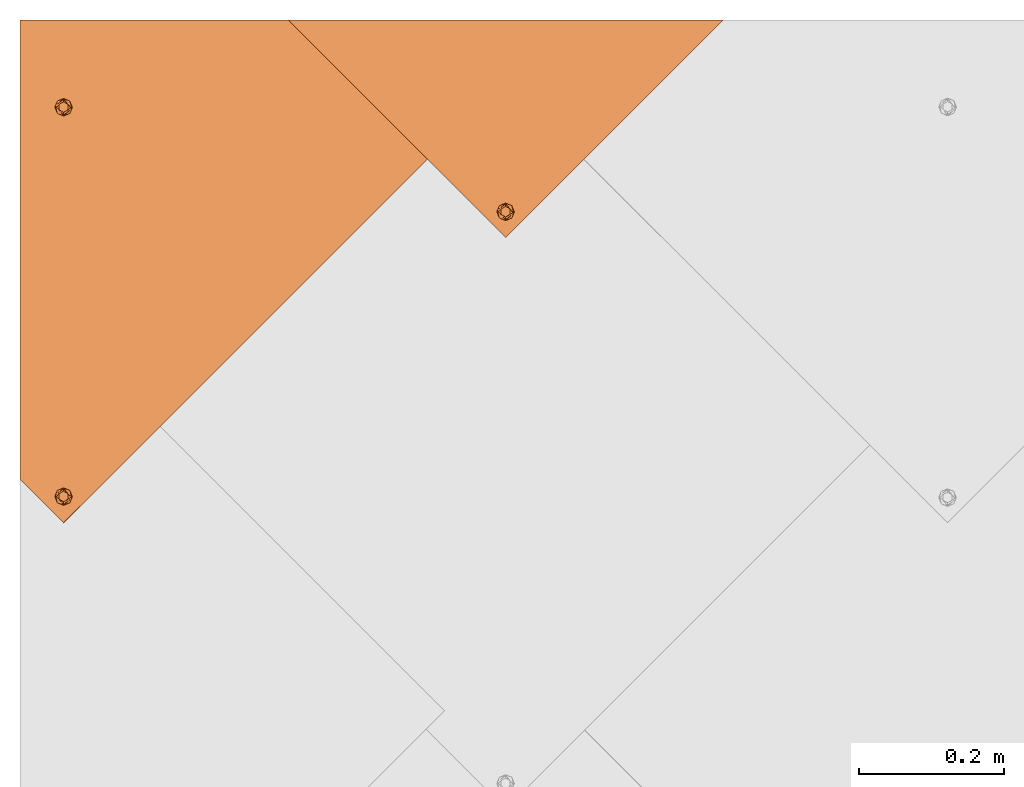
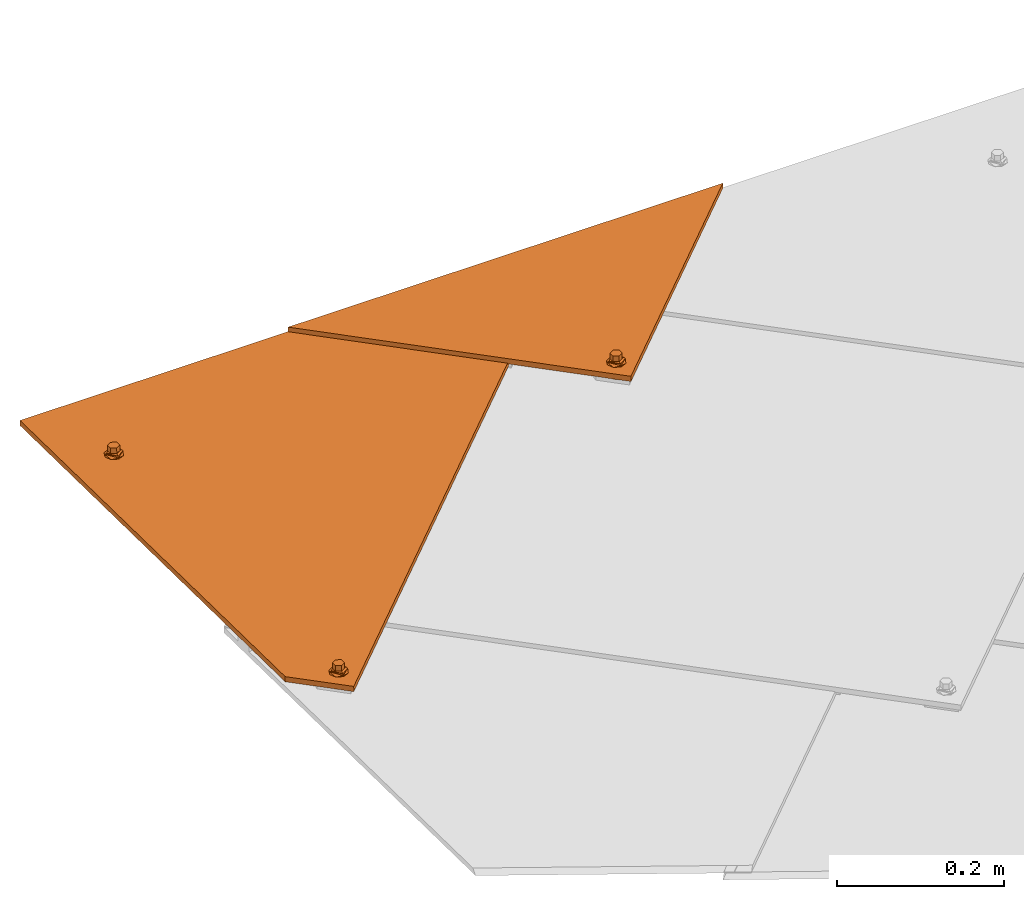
# One storey, part 118 of 151: 2 proxies.
"""IFC2X3 building model written with IfcOpenShell, lengths in millimetres."""

from ifc_helpers import new_model, entity, si_unit, converted_unit, derived_unit, direction, frame, origin, place, context, subcontext, project, spatial, faceted_brep, source, transform, mapped, material, material_list, type_object, type_shapes, element, save


model = new_model("IFC2X3")

# Units and contexts
model_context = context("Model", 3, precision=0.01, world=origin(), true_north=direction((6.12303176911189e-17, 1.0)))
body_context = subcontext(model_context, "Body", "Model", "MODEL_VIEW")
ifc_project = project(units=[si_unit("LENGTHUNIT", "METRE", prefix="MILLI"), si_unit("AREAUNIT", "SQUARE_METRE"), si_unit("VOLUMEUNIT", "CUBIC_METRE"), converted_unit("PLANEANGLEUNIT", "DEGREE", entity("IfcRatioMeasure", 0.0174532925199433), si_unit("PLANEANGLEUNIT", "RADIAN"), dimensions=[0, 0, 0, 0, 0, 0, 0]), si_unit("MASSUNIT", "GRAM", prefix="KILO"), derived_unit("MASSDENSITYUNIT", [(si_unit("MASSUNIT", "GRAM", prefix="KILO"), 1), (si_unit("LENGTHUNIT", "METRE"), -3)]), si_unit("TIMEUNIT", "SECOND"), si_unit("FREQUENCYUNIT", "HERTZ"), si_unit("THERMODYNAMICTEMPERATUREUNIT", "DEGREE_CELSIUS"), derived_unit("THERMALTRANSMITTANCEUNIT", [(si_unit("MASSUNIT", "GRAM", prefix="KILO"), 1), (si_unit("THERMODYNAMICTEMPERATUREUNIT", "KELVIN"), -1), (si_unit("TIMEUNIT", "SECOND"), -3)]), derived_unit("VOLUMETRICFLOWRATEUNIT", [(si_unit("LENGTHUNIT", "METRE"), 3), (si_unit("TIMEUNIT", "SECOND"), -1)]), si_unit("ELECTRICCURRENTUNIT", "AMPERE"), si_unit("ELECTRICVOLTAGEUNIT", "VOLT"), si_unit("POWERUNIT", "WATT"), si_unit("FORCEUNIT", "NEWTON", prefix="KILO"), si_unit("ILLUMINANCEUNIT", "LUX"), si_unit("LUMINOUSFLUXUNIT", "LUMEN"), si_unit("LUMINOUSINTENSITYUNIT", "CANDELA"), derived_unit("USERDEFINED", [(si_unit("MASSUNIT", "GRAM", prefix="KILO"), -1), (si_unit("LENGTHUNIT", "METRE"), -2), (si_unit("TIMEUNIT", "SECOND"), 3), (si_unit("LUMINOUSFLUXUNIT", "LUMEN"), 1)]), derived_unit("LINEARVELOCITYUNIT", [(si_unit("LENGTHUNIT", "METRE"), 1), (si_unit("TIMEUNIT", "SECOND"), -1)]), si_unit("PRESSUREUNIT", "PASCAL"), derived_unit("USERDEFINED", [(si_unit("LENGTHUNIT", "METRE"), -2), (si_unit("MASSUNIT", "GRAM", prefix="KILO"), 1), (si_unit("TIMEUNIT", "SECOND"), -2)])], contexts=[model_context])

# Site, building, storey
site_placement = place(None, origin())
site = spatial("IfcSite", under=ifc_project, at=site_placement, Name="Default", CompositionType="ELEMENT")
building_placement = place(site_placement, origin())
building = spatial("IfcBuilding", under=site, at=building_placement, CompositionType="ELEMENT")
storey_placement = place(building_placement, origin())
storey = spatial("IfcBuildingStorey", under=building, at=storey_placement, Name="Level 1", CompositionType="ELEMENT", Elevation=0.0)

# Proxies
ifc_material_1 = material(Name="Rubber - Sunstyle - Black")
ifc_material_2 = material(Name="Glass - Sunstyle - Tainted Black")
ifc_material_list_1 = material_list([ifc_material_1, ifc_material_2])
ifc_material_list_2 = material_list([ifc_material_1, ifc_material_2])
building_element_proxy_type_1 = type_object("IfcBuildingElementProxyType", Name="Corner Top Big Left - Black", PredefinedType="NOTDEFINED", material=ifc_material_list_2)
shared_shape_1 = source(origin(), body_context, "Body", "Brep", [
    faceted_brep([(0.0, -33.9825851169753, -4.47296585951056), (-5.7742028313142, -37.3158552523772, -4.41714187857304), (-5.77420283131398, -36.9475461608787, 17.5747274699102), (0.0, -33.6142760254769, 17.5189034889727), (-5.77420283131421, -43.9823955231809, -4.30549391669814), (-5.77420283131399, -43.6140864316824, 17.6863754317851), (0.0, -47.3156656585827, -4.24966993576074), (0.0, -46.9473565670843, 17.7421994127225), (5.77420283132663, -43.9823955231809, -4.30549391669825), (5.77420283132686, -43.6140864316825, 17.686375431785), (5.77420283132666, -37.3158552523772, -4.41714187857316), (5.77420283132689, -36.9475461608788, 17.5747274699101), (-8.60370416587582, -48.8833141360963, 17.774621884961), (0.0, -52.4465854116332, 17.8342978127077), (-12.1674751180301, -40.2808162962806, 17.6305514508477), (-8.60370416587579, -31.6783184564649, 17.4864810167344), (0.0, -28.115047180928, 17.4268050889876), (8.60370416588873, -31.6783184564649, 17.4864810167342), (12.167475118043, -40.2808162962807, 17.6305514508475), (8.60370416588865, -48.8833141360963, 17.7746218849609), (-11.3242446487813, -37.9857391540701, 19.9433933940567), (-9.75647455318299, -40.2098014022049, 21.8708760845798), (0.0, -32.8967261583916, 22.5035764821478), (0.0, -31.6562285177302, 21.9232298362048), (0.0, -29.4986776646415, 20.9138547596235), (0.0, -51.8905414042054, 19.1093557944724), (0.0, -50.9469648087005, 21.273060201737), (0.0, -47.4975891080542, 22.748104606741), (0.0, -28.6280832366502, 18.719767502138), (-6.32324569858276, -43.8473733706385, 22.6869725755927), (-6.32324569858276, -36.5469418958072, 22.5647085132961), (11.3242446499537, -42.4971593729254, 20.0189484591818), (9.84888015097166, -41.2842078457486, 21.7920079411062), (6.32324569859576, -36.5469418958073, 22.564708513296), (6.32324569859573, -43.8473733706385, 22.6869725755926), (-6.32324569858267, -43.7133449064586, 30.6898607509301), (0.0, -47.3635606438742, 30.7509927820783), (0.0, -40.063129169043, 30.6287287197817), (-6.32324569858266, -36.4129134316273, 30.5675966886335), (6.32324569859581, -43.7133449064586, 30.68986075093), (6.32324569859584, -36.4129134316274, 30.5675966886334), (0.0, -32.7626976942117, 30.5064646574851), (0.0, -40.649125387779, -4.36131789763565)], [[[0, 1, 2, 3]], [[1, 4, 5, 2]], [[4, 6, 7, 5]], [[6, 8, 9, 7]], [[8, 10, 11, 9]], [[10, 0, 3, 11]], [[12, 7, 13]], [[7, 12, 5]], [[14, 5, 12]], [[5, 14, 2]], [[15, 2, 14]], [[3, 2, 15]], [[15, 16, 3]], [[16, 17, 3]], [[11, 3, 17]], [[11, 17, 18]], [[9, 11, 18]], [[18, 19, 9]], [[7, 9, 19]], [[19, 13, 7]], [[20, 14, 12]], [[21, 22, 23, 24]], [[24, 20, 21]], [[25, 20, 12]], [[26, 27, 21]], [[15, 14, 20]], [[12, 13, 25]], [[20, 28, 15]], [[28, 20, 24]], [[21, 27, 29]], [[21, 29, 30]], [[26, 21, 20]], [[20, 25, 26]], [[15, 28, 16]], [[21, 30, 22]], [[31, 18, 17]], [[28, 31, 17]], [[32, 27, 26]], [[26, 31, 32]], [[26, 25, 31]], [[25, 19, 31]], [[17, 16, 28]], [[31, 19, 18]], [[24, 31, 28]], [[33, 34, 32]], [[23, 22, 33]], [[24, 32, 31]], [[27, 32, 34]], [[32, 23, 33]], [[19, 25, 13]], [[32, 24, 23]], [[35, 36, 37]], [[37, 38, 35]], [[36, 39, 37]], [[40, 37, 39]], [[37, 40, 41]], [[37, 41, 38]], [[42, 6, 4]], [[4, 1, 42]], [[1, 0, 42]], [[42, 8, 6]], [[0, 10, 42]], [[8, 42, 10]], [[22, 30, 38, 41]], [[30, 29, 35, 38]], [[29, 27, 36, 35]], [[27, 34, 39, 36]], [[34, 33, 40, 39]], [[33, 22, 41, 40]]]),
    faceted_brep([(0.0, -572.517457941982, 4.0063690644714), (-5.77420283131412, -575.850728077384, 4.06219304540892), (-5.77420283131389, -575.482418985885, 26.0540623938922), (0.0, -572.149148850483, 25.9982384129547), (-5.77420283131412, -582.517268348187, 4.17384100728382), (-5.7742028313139, -582.148959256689, 26.1657103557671), (0.0, -585.850538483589, 4.22966498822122), (0.0, -585.482229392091, 26.2215343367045), (5.77420283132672, -582.517268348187, 4.17384100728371), (5.77420283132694, -582.148959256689, 26.165710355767), (5.77420283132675, -575.850728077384, 4.0621930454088), (5.77420283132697, -575.482418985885, 26.0540623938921), (-8.60370416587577, -587.418186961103, 26.253956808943), (0.0, -590.98145823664, 26.3136327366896), (-12.1674751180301, -578.815689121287, 26.1098863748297), (-8.60370416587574, -570.213191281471, 25.9658159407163), (0.0, -566.649920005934, 25.9061400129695), (8.60370416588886, -570.213191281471, 25.9658159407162), (12.1674751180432, -578.815689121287, 26.1098863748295), (8.60370416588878, -587.418186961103, 26.2539568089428), (-11.3242446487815, -576.520611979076, 28.4227283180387), (-9.75647455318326, -578.744674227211, 30.3502110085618), (0.0, -571.431598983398, 30.9829114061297), (0.0, -570.191101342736, 30.4025647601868), (0.0, -568.033550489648, 29.3931896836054), (0.0, -590.425414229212, 27.5886907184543), (0.0, -589.481837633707, 29.752395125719), (0.0, -586.032461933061, 31.227439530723), (0.0, -567.162956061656, 27.1991024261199), (-6.32324569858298, -582.382246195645, 31.1663074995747), (-6.32324569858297, -575.081814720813, 31.0440434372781), (11.3242446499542, -581.032032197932, 28.4982833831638), (9.8488801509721, -579.819080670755, 30.2713428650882), (6.32324569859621, -575.081814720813, 31.044043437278), (6.32324569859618, -582.382246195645, 31.1663074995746), (-6.32324569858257, -582.248217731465, 39.1691956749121), (0.0, -585.898433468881, 39.2303277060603), (0.0, -578.598001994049, 39.1080636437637), (-6.32324569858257, -574.947786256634, 39.0469316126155), (6.32324569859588, -582.248217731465, 39.1691956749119), (6.32324569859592, -574.947786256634, 39.0469316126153), (0.0, -571.297570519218, 38.9857995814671), (0.0, -579.183998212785, 4.1180170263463)], [[[0, 1, 2, 3]], [[1, 4, 5, 2]], [[4, 6, 7, 5]], [[6, 8, 9, 7]], [[8, 10, 11, 9]], [[10, 0, 3, 11]], [[12, 7, 13]], [[7, 12, 5]], [[14, 5, 12]], [[5, 14, 2]], [[15, 2, 14]], [[3, 2, 15]], [[15, 16, 3]], [[16, 17, 3]], [[11, 3, 17]], [[11, 17, 18]], [[9, 11, 18]], [[18, 19, 9]], [[7, 9, 19]], [[19, 13, 7]], [[20, 14, 12]], [[21, 22, 23, 24]], [[24, 20, 21]], [[25, 20, 12]], [[26, 27, 21]], [[15, 14, 20]], [[12, 13, 25]], [[20, 28, 15]], [[28, 20, 24]], [[21, 27, 29]], [[21, 29, 30]], [[26, 21, 20]], [[20, 25, 26]], [[15, 28, 16]], [[21, 30, 22]], [[31, 18, 17]], [[28, 31, 17]], [[32, 27, 26]], [[26, 31, 32]], [[26, 25, 31]], [[25, 19, 31]], [[17, 16, 28]], [[31, 19, 18]], [[24, 31, 28]], [[33, 34, 32]], [[23, 22, 33]], [[24, 32, 31]], [[27, 32, 34]], [[32, 23, 33]], [[19, 25, 13]], [[32, 24, 23]], [[35, 36, 37]], [[37, 38, 35]], [[36, 39, 37]], [[40, 37, 39]], [[37, 40, 41]], [[37, 41, 38]], [[42, 6, 4]], [[4, 1, 42]], [[1, 0, 42]], [[42, 8, 6]], [[0, 10, 42]], [[8, 42, 10]], [[22, 30, 38, 41]], [[30, 29, 35, 38]], [[29, 27, 36, 35]], [[27, 34, 39, 36]], [[34, 33, 40, 39]], [[33, 22, 41, 40]]]),
    faceted_brep([(518.469870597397, -96.888376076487, 17.926263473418), (526.954557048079, -88.4036896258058, 17.7841660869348), (526.954557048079, -88.3785718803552, 19.2839557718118), (518.469870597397, -96.8632583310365, 19.426053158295), (349.749078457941, 71.7851066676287, 15.1014023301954), (358.233764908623, 80.2697931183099, 14.9593049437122), (358.233764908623, 80.2949108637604, 16.4590946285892), (349.749078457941, 71.8102244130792, 16.6011920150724)], [[[0, 1, 2, 3]], [[1, 0, 4, 5]], [[2, 1, 5, 6]], [[3, 2, 6, 7]], [[0, 3, 7, 4]], [[4, 7, 6, 5]]]),
    faceted_brep([(358.233764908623, 80.2697931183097, 14.9593049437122), (6.92820323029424, -35.9783347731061, 16.9061718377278), (7.72740661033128, -37.9075118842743, 16.9384807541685), (5.6568542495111, -34.321712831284, 16.8784275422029), (8.0, -39.9777739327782, 16.9731524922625), (7.72740661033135, -42.0480359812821, 17.0078242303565), (6.92820323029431, -43.9772130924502, 17.0401331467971), (526.954557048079, -88.4036896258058, 17.7841660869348), (-60.1037538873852, 80.269793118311, 14.9593049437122), (4.0, -33.0505421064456, 16.8571385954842), (2.07055236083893, -32.2514507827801, 16.8437558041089), (0.0, -31.9788956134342, 16.8391911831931), (-2.07055236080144, -32.2514507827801, 16.8437558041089), (-4.0, -33.0505421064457, 16.8571385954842), (-5.6568542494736, -34.321712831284, 16.8784275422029), (-6.92820323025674, -35.9783347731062, 16.9061718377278), (-7.72740661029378, -37.9075118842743, 16.9384807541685), (-8.0, -39.9777739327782, 16.9731524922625), (-7.72740661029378, -42.0480359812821, 17.0078242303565), (-60.1037538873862, -555.122942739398, 25.6005522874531), (-6.92820323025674, -43.9772130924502, 17.0401331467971), (-5.6568542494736, -45.6338350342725, 17.067877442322), (-4.0, -46.9050057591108, 17.0891663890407), (-2.07055236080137, -47.7040970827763, 17.102549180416), (0.0, -47.9766522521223, 17.1071138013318), (2.07055236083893, -47.7040970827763, 17.102549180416), (2.00505600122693, -570.990105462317, 25.8662877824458), (-0.0654963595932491, -570.717550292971, 25.8617231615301), (-2.13604872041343, -570.990105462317, 25.8662877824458), (-4.06549635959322, -571.789196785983, 25.8796705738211), (-5.7223506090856, -573.060367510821, 25.9009595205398), (-6.99369958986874, -574.716989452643, 25.9287038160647), (-7.79290296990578, -576.646166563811, 25.9610127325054), (-8.06549635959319, -578.716428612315, 25.9956844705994), (-7.79290296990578, -580.786690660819, 26.0303562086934), (-6.99369958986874, -582.715867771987, 26.062665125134), (0.00032251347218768, -615.210165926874, 26.6068637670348), (7.66191025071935, -580.786690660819, 26.0303562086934), (6.86270687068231, -582.715867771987, 26.062665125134), (5.59135788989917, -584.37248971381, 26.0904094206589), (3.93450364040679, -585.643660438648, 26.1116983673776), (2.005056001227, -586.442751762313, 26.1250811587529), (-0.0654963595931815, -586.715306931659, 26.1296457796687), (-2.13604872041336, -586.442751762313, 26.1250811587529), (-4.06549635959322, -585.643660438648, 26.1116983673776), (-5.7223506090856, -584.37248971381, 26.0904094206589), (3.93450364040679, -571.789196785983, 25.8796705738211), (4.0, -46.9050057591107, 17.0891663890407), (5.59135788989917, -573.060367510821, 25.9009595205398), (5.65685424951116, -45.6338350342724, 17.067877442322), (6.86270687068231, -574.716989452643, 25.9287038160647), (7.66191025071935, -576.646166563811, 25.9610127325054), (7.93450364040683, -578.716428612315, 25.9956844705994), (-60.1037538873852, 80.1442043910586, 7.46035651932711), (-6.92820323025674, -36.1039235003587, 9.40722341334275), (-7.72740661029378, -38.0331006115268, 9.4395323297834), (-5.6568542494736, -34.4473015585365, 9.37947911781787), (-8.0, -40.1033626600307, 9.4742040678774), (-7.72740661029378, -42.1736247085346, 9.5088758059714), (-60.1037538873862, -555.248531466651, 18.101603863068), (-4.0, -33.1761308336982, 9.35819017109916), (-2.07055236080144, -32.3770395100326, 9.34480737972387), (0.0, -32.1044843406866, 9.34024275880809), (2.07055236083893, -32.3770395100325, 9.34480737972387), (4.0, -33.1761308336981, 9.35819017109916), (5.6568542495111, -34.4473015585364, 9.37947911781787), (358.233764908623, 80.1442043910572, 7.46035651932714), (6.92820323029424, -36.1039235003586, 9.40722341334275), (7.72740661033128, -38.0331006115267, 9.4395323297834), (8.0, -40.1033626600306, 9.4742040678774), (7.72740661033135, -42.1736247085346, 9.5088758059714), (6.92820323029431, -44.1028018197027, 9.54118472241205), (526.954557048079, -88.5292783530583, 10.2852176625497), (5.65685424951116, -45.7594237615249, 9.56892901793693), (5.59135788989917, -573.185956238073, 18.4020110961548), (6.86270687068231, -574.842578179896, 18.4297553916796), (7.66191025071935, -576.771755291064, 18.4620643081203), (7.93450364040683, -578.842017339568, 18.4967360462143), (7.66191025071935, -580.912279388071, 18.5314077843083), (0.00032251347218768, -615.335754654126, 19.1079153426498), (-6.99369958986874, -582.84145649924, 18.563716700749), (-5.7223506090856, -584.498078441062, 18.5914609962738), (-4.06549635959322, -585.7692491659, 18.6127499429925), (-2.13604872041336, -586.568340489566, 18.6261327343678), (-0.0654963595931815, -586.840895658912, 18.6306973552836), (2.005056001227, -586.568340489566, 18.6261327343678), (3.93450364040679, -585.7692491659, 18.6127499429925), (5.59135788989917, -584.498078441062, 18.5914609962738), (6.86270687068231, -582.84145649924, 18.563716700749), (4.0, -47.0305944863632, 9.59021796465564), (3.93450364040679, -571.914785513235, 18.3807221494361), (2.07055236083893, -47.8296858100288, 9.60360075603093), (2.00505600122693, -571.115694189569, 18.3673393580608), (-0.0654963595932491, -570.843139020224, 18.362774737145), (-2.13604872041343, -571.11569418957, 18.3673393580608), (-4.06549635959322, -571.914785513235, 18.3807221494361), (-5.7223506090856, -573.185956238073, 18.4020110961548), (-6.99369958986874, -574.842578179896, 18.4297553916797), (-7.79290296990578, -576.771755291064, 18.4620643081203), (-8.06549635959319, -578.842017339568, 18.4967360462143), (-7.79290296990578, -580.912279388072, 18.5314077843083), (0.0, -48.1022409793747, 9.60816537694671), (-6.92820323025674, -44.1028018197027, 9.54118472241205), (-5.6568542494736, -45.7594237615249, 9.56892901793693), (-4.0, -47.0305944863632, 9.59021796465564), (-2.07055236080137, -47.8296858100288, 9.60360075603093)], [[[0, 1, 2]], [[1, 0, 3]], [[0, 2, 4]], [[4, 5, 0]], [[5, 6, 0]], [[7, 0, 6]], [[8, 3, 0]], [[8, 9, 3]], [[8, 10, 9]], [[11, 10, 8]], [[12, 11, 8]], [[13, 12, 8]], [[8, 14, 13]], [[14, 8, 15]], [[15, 8, 16]], [[17, 16, 8]], [[18, 17, 8]], [[18, 8, 19]], [[19, 20, 18]], [[21, 20, 19]], [[22, 21, 19]], [[23, 22, 19]], [[19, 24, 23]], [[19, 25, 24]], [[26, 25, 19]], [[26, 19, 27]], [[28, 27, 19]], [[29, 28, 19]], [[29, 19, 30]], [[19, 31, 30]], [[31, 19, 32]], [[32, 19, 33]], [[34, 33, 19]], [[35, 34, 19]], [[35, 19, 36]], [[7, 37, 36]], [[36, 37, 38]], [[39, 36, 38]], [[39, 40, 36]], [[41, 36, 40]], [[42, 36, 41]], [[42, 43, 36]], [[43, 44, 36]], [[45, 35, 36]], [[45, 36, 44]], [[25, 26, 46]], [[46, 47, 25]], [[48, 47, 46]], [[48, 49, 47]], [[50, 7, 48]], [[48, 7, 49]], [[7, 50, 51]], [[7, 51, 52]], [[52, 37, 7]], [[7, 6, 49]], [[53, 54, 55]], [[54, 53, 56]], [[53, 55, 57]], [[58, 53, 57]], [[53, 58, 59]], [[60, 56, 53]], [[61, 60, 53]], [[53, 62, 61]], [[62, 53, 63]], [[63, 53, 64]], [[53, 65, 64]], [[65, 53, 66]], [[66, 67, 65]], [[67, 66, 68]], [[68, 66, 69]], [[70, 69, 66]], [[71, 70, 66]], [[71, 66, 72]], [[72, 73, 71]], [[73, 72, 74]], [[74, 72, 75]], [[75, 72, 76]], [[77, 76, 72]], [[78, 77, 72]], [[78, 72, 79]], [[59, 80, 79]], [[79, 80, 81]], [[79, 81, 82]], [[82, 83, 79]], [[83, 84, 79]], [[79, 84, 85]], [[79, 85, 86]], [[86, 87, 79]], [[79, 87, 88]], [[79, 88, 78]], [[73, 74, 89]], [[90, 89, 74]], [[90, 91, 89]], [[91, 90, 92]], [[93, 59, 92]], [[92, 59, 91]], [[93, 94, 59]], [[94, 95, 59]], [[95, 96, 59]], [[97, 59, 96]], [[97, 98, 59]], [[98, 99, 59]], [[99, 100, 59]], [[100, 80, 59]], [[59, 101, 91]], [[102, 59, 58]], [[102, 103, 59]], [[103, 104, 59]], [[104, 105, 59]], [[59, 105, 101]], [[36, 19, 59, 79]], [[7, 36, 79, 72]], [[0, 7, 72, 66]], [[33, 99, 98, 32]], [[32, 98, 97, 31]], [[29, 30, 96, 95]], [[96, 30, 31, 97]], [[28, 29, 95, 94]], [[28, 94, 93, 27]], [[27, 93, 92, 26]], [[26, 92, 90, 46]], [[50, 48, 74, 75]], [[74, 48, 46, 90]], [[51, 50, 75, 76]], [[51, 76, 77, 52]], [[52, 77, 78, 37]], [[37, 78, 88, 38]], [[40, 39, 87, 86]], [[87, 39, 38, 88]], [[41, 40, 86, 85]], [[41, 85, 84, 42]], [[42, 84, 83, 43]], [[43, 83, 82, 44]], [[35, 45, 81, 80]], [[81, 45, 44, 82]], [[34, 35, 80, 100]], [[34, 100, 99, 33]], [[17, 57, 55, 16]], [[16, 55, 54, 15]], [[13, 14, 56, 60]], [[56, 14, 15, 54]], [[12, 13, 60, 61]], [[12, 61, 62, 11]], [[11, 62, 63, 10]], [[10, 63, 64, 9]], [[1, 3, 65, 67]], [[65, 3, 9, 64]], [[2, 1, 67, 68]], [[2, 68, 69, 4]], [[4, 69, 70, 5]], [[5, 70, 71, 6]], [[47, 49, 73, 89]], [[73, 49, 6, 71]], [[25, 47, 89, 91]], [[25, 91, 101, 24]], [[24, 101, 105, 23]], [[23, 105, 104, 22]], [[20, 21, 103, 102]], [[103, 21, 22, 104]], [[18, 20, 102, 58]], [[18, 58, 57, 17]], [[19, 8, 53, 59]], [[8, 0, 66, 53]]]),
])
type_shapes(building_element_proxy_type_1, [shared_shape_1])
proxy_1_placement = place(storey_placement, frame((-18987.0196750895, 16738.1410486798, 0.0)))
element("IfcBuildingElementProxy", 1, at=proxy_1_placement, inside=storey, type_object=building_element_proxy_type_1, material=ifc_material_list_1, Name="Roofing_Panels_SunStyle_Tile_Corner-Top-Big-Left:Corner Top Big Left - Black", ObjectType="Roofing_Panels_SunStyle_Tile_Corner-Top-Big-Left:Corner Top Big Left - Black", context=body_context, shape_type="MappedRepresentation", body=[
    mapped(shared_shape_1, transform((0.0, 0.0, 0.0), scale=1.0)),
])
ifc_material_list_3 = material_list([ifc_material_1, ifc_material_2])
ifc_material_list_4 = material_list([ifc_material_1, ifc_material_2])
building_element_proxy_type_2 = type_object("IfcBuildingElementProxyType", Name="Shingle Top Small - Black", PredefinedType="NOTDEFINED", material=ifc_material_list_4)
shared_shape_2 = source(origin(), body_context, "Body", "Brep", [
    faceted_brep([(300.675008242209, 41.77298489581, 1.59527223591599), (294.900805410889, 38.4397147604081, 1.65109621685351), (294.900805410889, 38.8080238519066, 23.6429655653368), (300.675008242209, 42.1412939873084, 23.5871415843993), (294.900805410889, 31.7731744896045, 1.76274417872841), (294.900805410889, 32.1414835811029, 23.7546135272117), (300.675008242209, 28.4399043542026, 1.81856815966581), (300.675008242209, 28.808213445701, 23.8104375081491), (306.44921107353, 31.7731744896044, 1.7627441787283), (306.44921107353, 32.1414835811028, 23.7546135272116), (306.44921107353, 38.4397147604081, 1.65109621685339), (306.44921107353, 38.8080238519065, 23.6429655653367), (292.071304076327, 26.8722558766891, 23.8428599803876), (300.675008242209, 23.3089846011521, 23.9025359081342), (288.507533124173, 35.4747537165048, 23.6987895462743), (292.071304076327, 44.0772515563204, 23.5547191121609), (300.675008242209, 47.6405228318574, 23.4950431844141), (309.278712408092, 44.0772515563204, 23.5547191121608), (312.842483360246, 35.4747537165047, 23.6987895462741), (309.278712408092, 26.872255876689, 23.8428599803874), (289.350763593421, 37.7698308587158, 26.0116314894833), (290.91853368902, 35.5457686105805, 27.9391141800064), (300.67500824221, 42.8588438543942, 28.5718145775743), (300.67500824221, 44.0993414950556, 27.9914679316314), (300.675008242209, 46.2568923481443, 26.98209285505), (300.675008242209, 23.8650286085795, 25.1775938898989), (300.675008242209, 24.8086052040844, 27.3412982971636), (300.675008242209, 28.2579809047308, 28.8163427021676), (300.675008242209, 47.1274867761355, 24.7880055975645), (294.35176254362, 31.9081966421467, 28.7552106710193), (294.35176254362, 39.2086281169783, 28.6329466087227), (311.999252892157, 33.2584106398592, 26.0871865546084), (310.523888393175, 34.4713621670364, 27.8602460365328), (306.998253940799, 39.2086281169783, 28.6329466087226), (306.998253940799, 31.9081966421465, 28.7552106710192), (294.35176254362, 32.0422251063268, 36.7580988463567), (300.67500824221, 28.3920093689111, 36.8192308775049), (300.67500824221, 35.6924408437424, 36.6969668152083), (294.35176254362, 39.342656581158, 36.6358347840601), (306.998253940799, 32.0422251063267, 36.7580988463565), (306.998253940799, 39.342656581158, 36.6358347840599), (300.67500824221, 42.9928723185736, 36.5747027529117), (300.675008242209, 35.1064446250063, 1.7069201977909)], [[[0, 1, 2, 3]], [[1, 4, 5, 2]], [[4, 6, 7, 5]], [[6, 8, 9, 7]], [[8, 10, 11, 9]], [[10, 0, 3, 11]], [[12, 7, 13]], [[7, 12, 5]], [[14, 5, 12]], [[5, 14, 2]], [[15, 2, 14]], [[3, 2, 15]], [[15, 16, 3]], [[16, 17, 3]], [[11, 3, 17]], [[11, 17, 18]], [[9, 11, 18]], [[18, 19, 9]], [[7, 9, 19]], [[19, 13, 7]], [[20, 14, 12]], [[21, 22, 23, 24]], [[24, 20, 21]], [[25, 20, 12]], [[26, 27, 21]], [[15, 14, 20]], [[12, 13, 25]], [[20, 28, 15]], [[28, 20, 24]], [[21, 27, 29]], [[21, 29, 30]], [[26, 21, 20]], [[20, 25, 26]], [[15, 28, 16]], [[21, 30, 22]], [[31, 18, 17]], [[28, 31, 17]], [[32, 27, 26]], [[26, 31, 32]], [[26, 25, 31]], [[25, 19, 31]], [[17, 16, 28]], [[31, 19, 18]], [[24, 31, 28]], [[33, 34, 32]], [[23, 22, 33]], [[24, 32, 31]], [[27, 32, 34]], [[32, 23, 33]], [[19, 25, 13]], [[32, 24, 23]], [[35, 36, 37]], [[37, 38, 35]], [[36, 39, 37]], [[40, 37, 39]], [[37, 40, 41]], [[37, 41, 38]], [[42, 6, 4]], [[4, 1, 42]], [[1, 0, 42]], [[42, 8, 6]], [[0, 10, 42]], [[8, 42, 10]], [[22, 30, 38, 41]], [[30, 29, 35, 38]], [[29, 27, 36, 35]], [[27, 34, 39, 36]], [[34, 33, 40, 39]], [[33, 22, 41, 40]]]),
    faceted_brep([(601.350661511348, 300.716609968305, 19.1616152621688), (307.603211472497, 39.4797476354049, 23.5366826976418), (308.402414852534, 37.5505705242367, 23.5689916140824), (306.331862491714, 41.1363695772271, 23.5089384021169), (308.675008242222, 35.4803084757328, 23.6036633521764), (304.675008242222, 42.4075403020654, 23.4876494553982), (302.745560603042, 43.206631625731, 23.4742666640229), (300.675008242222, 43.4791867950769, 23.4697020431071), (308.402414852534, 33.4100464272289, 23.6383350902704), (300.675330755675, 0.125588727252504, 24.1957669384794), (0.0, 300.716609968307, 19.1616152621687), (298.604455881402, 43.2066316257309, 23.4742666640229), (296.675008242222, 42.4075403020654, 23.4876494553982), (295.018153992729, 41.136369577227, 23.5089384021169), (293.746805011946, 39.4797476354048, 23.5366826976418), (292.947601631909, 37.5505705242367, 23.5689916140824), (292.675008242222, 35.4803084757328, 23.6036633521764), (292.947601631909, 33.4100464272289, 23.6383350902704), (293.746805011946, 31.4808693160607, 23.6706440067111), (307.603211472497, 31.4808693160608, 23.6706440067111), (306.331862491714, 29.8242473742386, 23.698388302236), (304.675008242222, 28.5530766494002, 23.7196772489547), (302.745560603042, 27.7539853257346, 23.73306004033), (300.675008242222, 27.4814301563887, 23.7376246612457), (298.604455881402, 27.7539853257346, 23.73306004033), (296.675008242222, 28.5530766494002, 23.7196772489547), (295.018153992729, 29.8242473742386, 23.698388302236), (0.0, 300.591021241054, 11.6626668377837), (295.018153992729, 41.0107808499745, 16.0099899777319), (293.746805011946, 39.3541589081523, 16.0377342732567), (296.675008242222, 42.2819515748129, 15.9887010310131), (292.947601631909, 37.4249817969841, 16.0700431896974), (298.604455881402, 43.0810428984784, 15.9753182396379), (300.675008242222, 43.3535980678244, 15.9707536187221), (601.350661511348, 300.591021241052, 11.6626668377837), (292.675008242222, 35.3547197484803, 16.1047149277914), (292.947601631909, 33.2844576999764, 16.1393866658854), (300.675330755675, 0.0, 16.6968185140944), (302.745560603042, 43.0810428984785, 15.9753182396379), (304.675008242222, 42.2819515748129, 15.9887010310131), (306.331862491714, 41.0107808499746, 16.0099899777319), (307.603211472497, 39.3541589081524, 16.0377342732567), (308.402414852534, 37.4249817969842, 16.0700431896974), (308.675008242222, 35.3547197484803, 16.1047149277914), (308.402414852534, 33.2844576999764, 16.1393866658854), (307.603211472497, 31.3552805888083, 16.171695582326), (293.746805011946, 31.3552805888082, 16.171695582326), (295.018153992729, 29.6986586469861, 16.1994398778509), (296.675008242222, 28.4274879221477, 16.2207288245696), (298.604455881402, 27.6283965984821, 16.2341116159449), (300.675008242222, 27.3558414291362, 16.2386762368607), (302.745560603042, 27.6283965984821, 16.2341116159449), (304.675008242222, 28.4274879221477, 16.2207288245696), (306.331862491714, 29.6986586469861, 16.1994398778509)], [[[0, 1, 2]], [[1, 0, 3]], [[0, 2, 4]], [[5, 3, 0]], [[6, 5, 0]], [[0, 7, 6]], [[4, 8, 0]], [[8, 9, 0]], [[7, 0, 10]], [[11, 7, 10]], [[12, 11, 10]], [[10, 13, 12]], [[13, 10, 14]], [[15, 14, 10]], [[10, 16, 15]], [[17, 16, 10]], [[10, 9, 17]], [[17, 9, 18]], [[8, 19, 9]], [[20, 9, 19]], [[20, 21, 9]], [[22, 9, 21]], [[23, 9, 22]], [[23, 24, 9]], [[24, 25, 9]], [[25, 26, 9]], [[9, 26, 18]], [[27, 28, 29]], [[28, 27, 30]], [[27, 29, 31]], [[32, 30, 27]], [[33, 32, 27]], [[27, 34, 33]], [[31, 35, 27]], [[35, 36, 27]], [[27, 36, 37]], [[38, 33, 34]], [[39, 38, 34]], [[40, 39, 34]], [[34, 41, 40]], [[41, 34, 42]], [[43, 42, 34]], [[34, 44, 43]], [[37, 44, 34]], [[45, 44, 37]], [[37, 36, 46]], [[37, 46, 47]], [[47, 48, 37]], [[48, 49, 37]], [[50, 37, 49]], [[50, 51, 37]], [[37, 51, 52]], [[52, 53, 37]], [[45, 37, 53]], [[9, 10, 27, 37]], [[0, 9, 37, 34]], [[16, 35, 31, 15]], [[15, 31, 29, 14]], [[12, 13, 28, 30]], [[28, 13, 14, 29]], [[11, 12, 30, 32]], [[11, 32, 33, 7]], [[7, 33, 38, 6]], [[6, 38, 39, 5]], [[1, 3, 40, 41]], [[40, 3, 5, 39]], [[2, 1, 41, 42]], [[2, 42, 43, 4]], [[4, 43, 44, 8]], [[8, 44, 45, 19]], [[21, 20, 53, 52]], [[53, 20, 19, 45]], [[22, 21, 52, 51]], [[22, 51, 50, 23]], [[23, 50, 49, 24]], [[24, 49, 48, 25]], [[18, 26, 47, 46]], [[47, 26, 25, 48]], [[17, 18, 46, 36]], [[17, 36, 35, 16]], [[10, 0, 34, 27]]]),
])
type_shapes(building_element_proxy_type_2, [shared_shape_2])
proxy_2_placement = place(storey_placement, frame((-18676.3152121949, 16517.6942318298, 2.4110968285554)))
element("IfcBuildingElementProxy", 2, at=proxy_2_placement, inside=storey, type_object=building_element_proxy_type_2, material=ifc_material_list_3, Name="Roofing_Panels_SunStyle_Tile_Shingle-Top-Small:Shingle Top Small - Black", ObjectType="Roofing_Panels_SunStyle_Tile_Shingle-Top-Small:Shingle Top Small - Black", context=body_context, shape_type="MappedRepresentation", body=[
    mapped(shared_shape_2, transform((0.0, 0.0, 0.0), scale=1.0)),
])

save(model, "model.ifc")
